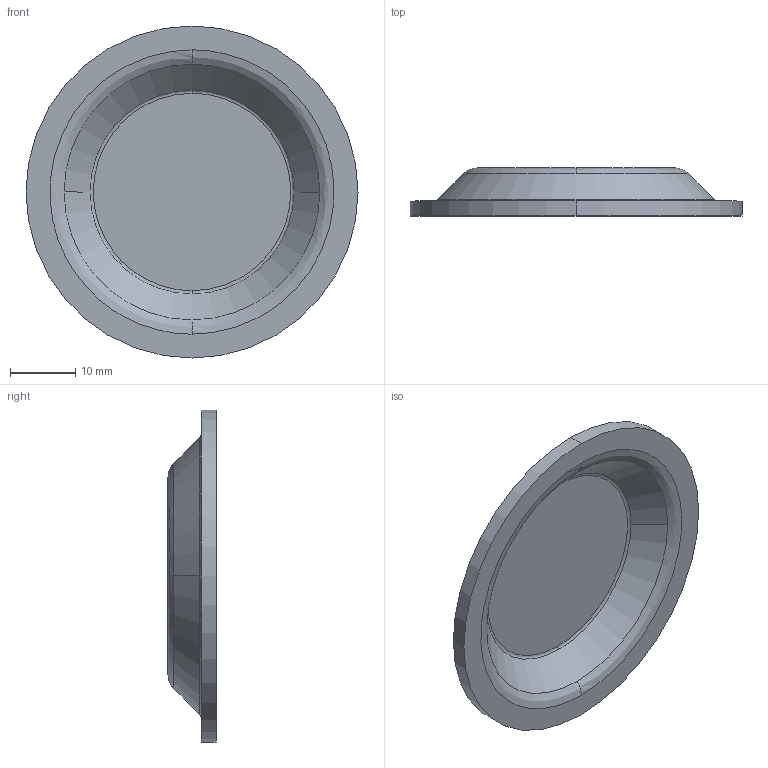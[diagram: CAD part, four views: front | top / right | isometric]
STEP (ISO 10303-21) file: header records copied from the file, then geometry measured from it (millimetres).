
FILE_DESCRIPTION (( 'STEP AP203' ), '1' );
FILE_NAME ('SO 126758-10.STEP', '2024-09-16T15:29:14', ( '' ), ( '' ), 'SwSTEP 2.0', 'SolidWorks 2024', '' );
FILE_SCHEMA (( 'CONFIG_CONTROL_DESIGN' ));
Length unit declared in the file: inch
Products named in the file (1): SO 126758-10
Bounding box: 50.8 x 7.37 x 50.8 mm (x, y, z)
Volume: 5146.9 mm3; surface area: 4866.6 mm2
Topology: 1 solids, 1 shells, 18 faces, 42 edges, 28 vertices
Faces by surface type: bspline 8, cone 4, plane 4, cylinder 2
Entity records: 899 total; most frequent: CARTESIAN_POINT 429, ORIENTED_EDGE 84, DIRECTION 84, EDGE_CURVE 42, AXIS2_PLACEMENT_3D 39, VERTEX_POINT 28, CIRCLE 28, EDGE_LOOP 20
